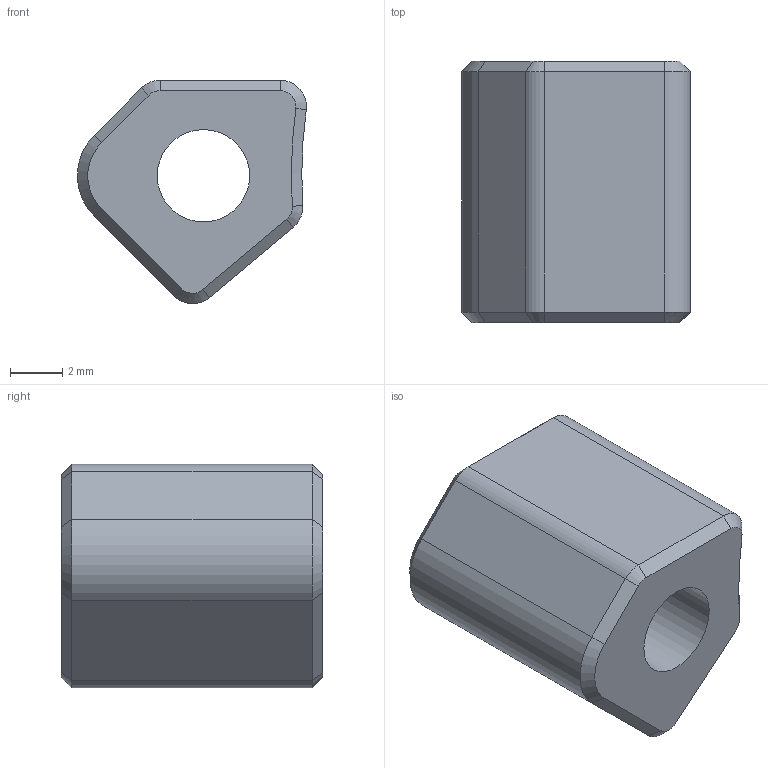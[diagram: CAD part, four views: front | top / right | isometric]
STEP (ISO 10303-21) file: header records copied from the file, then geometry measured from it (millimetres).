
FILE_DESCRIPTION(/* description */ (''),/* implementation_level */ '2;1');
FILE_NAME(/* name */ 'C:/Users/Martin/Documents/icarus-2.1/icarus-2-current-step-files/5-optional-parts/icarus-4010-fan-distance-2.0.step',/* time_stamp */ '2022-08-22T19:39:55+02:00',/* author */ (''),/* organization */ (''),/* preprocessor_version */ 'ST-DEVELOPER v19',/* originating_system */ 'Autodesk Translation Framework v11.7.0.108',/* authorisation */ '');
FILE_SCHEMA (('AUTOMOTIVE_DESIGN { 1 0 10303 214 3 1 1 }'));
Length unit declared in the file: millimetre
Products named in the file (1): icarus
Bounding box: 8.75 x 10 x 8.55 mm (x, y, z)
Volume: 451.9 mm3; surface area: 465.8 mm2
Topology: 1 solids, 1 shells, 33 faces, 73 edges, 42 vertices
Faces by surface type: plane 14, cone 12, cylinder 7
Full cylindrical faces by diameter (mm): 3.533 x1
Entity records: 1234 total; most frequent: DIRECTION 167, CARTESIAN_POINT 149, ORIENTED_EDGE 146, EDGE_CURVE 73, AXIS2_PLACEMENT_3D 60, LINE 47, VECTOR 47, PRESENTATION_STYLE_ASSIGNMENT 46
